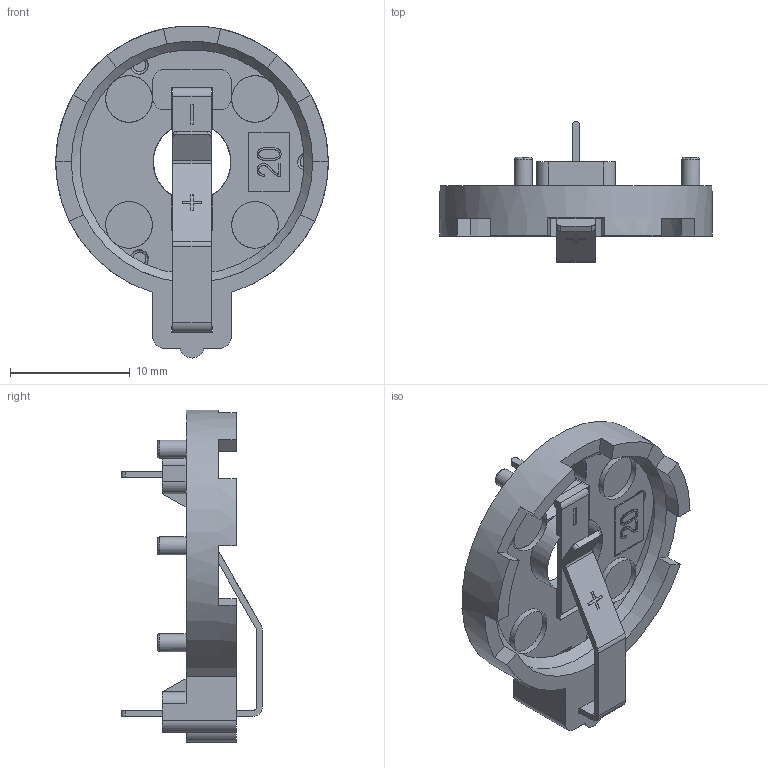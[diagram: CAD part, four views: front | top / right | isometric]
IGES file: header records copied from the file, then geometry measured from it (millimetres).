
Global section: file name: Filename.iges; native system: Open CASCADE 7.3; preprocessor: Open CASCADE IGES processor 7.3; date: 20210428.100741; units: millimetre
Bounding box: 22.8 x 11.8 x 27.77 mm (x, y, z)
Surface area: 1778 mm2 (no closed solid volume)
Topology: 0 solids, 0 shells, 163 faces, 860 edges, 842 vertices
Faces by surface type: plane 118, revolution 41, bspline 4
